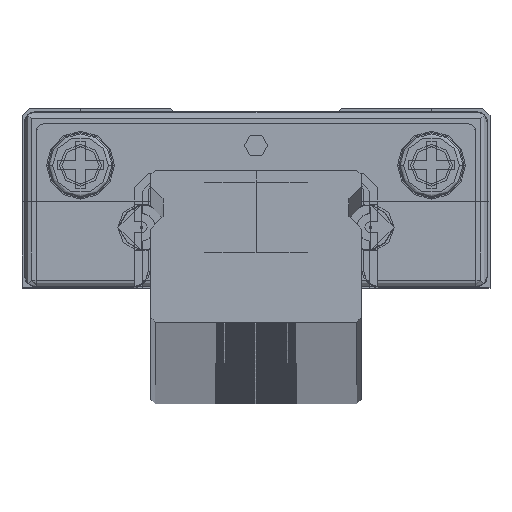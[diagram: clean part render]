
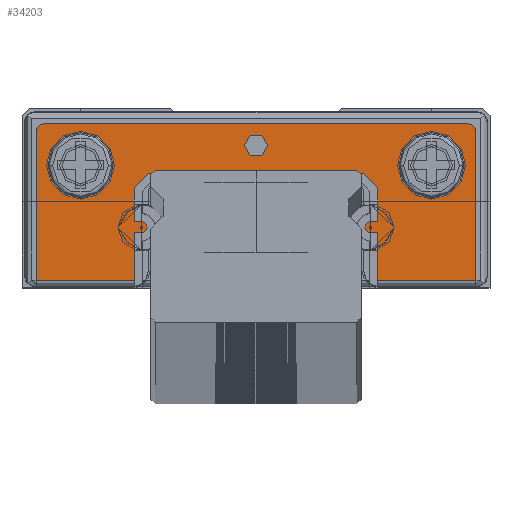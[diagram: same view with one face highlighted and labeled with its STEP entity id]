
A CAD part, top view. The second image highlights one B-rep face of the part: STEP entity #34203.
In plain terms, the highlighted planar face has unit normal (0, 0, 1) as drawn and (0, 0, -1) by its records, which use the part's own axes.
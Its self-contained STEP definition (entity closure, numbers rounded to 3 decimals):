
#22651=DIRECTION('',(0.,-1.,0.));
#22652=VECTOR('',#22651,2.03);
#22653=CARTESIAN_POINT('',(-5.2,-5.345,-20.25));
#22654=LINE('',#22653,#22652);
#23275=CARTESIAN_POINT('',(-4.9,-5.1,-20.25));
#23276=DIRECTION('',(0.,0.,1.));
#23277=DIRECTION('',(0.2,-0.98,0.));
#23278=AXIS2_PLACEMENT_3D('',#23275,#23276,#23277);
#23280=CARTESIAN_POINT('',(-4.9,-5.1,-20.25));
#23281=DIRECTION('',(0.,0.,1.));
#23282=DIRECTION('',(1.,0.,0.));
#23283=AXIS2_PLACEMENT_3D('',#23280,#23281,#23282);
#23285=DIRECTION('',(0.707,0.707,0.));
#23286=VECTOR('',#23285,0.863);
#23287=CARTESIAN_POINT('',(-5.2,-3.41,-20.25));
#23288=LINE('',#23287,#23286);
#23289=DIRECTION('',(0.707,-0.707,0.));
#23290=VECTOR('',#23289,0.863);
#23291=CARTESIAN_POINT('',(4.59,-2.8,-20.25));
#23292=LINE('',#23291,#23290);
#23293=CARTESIAN_POINT('',(4.9,-5.1,-20.25));
#23294=DIRECTION('',(0.,0.,1.));
#23295=DIRECTION('',(-0.2,0.98,0.));
#23296=AXIS2_PLACEMENT_3D('',#23293,#23294,#23295);
#23298=CARTESIAN_POINT('',(4.9,-5.1,-20.25));
#23299=DIRECTION('',(0.,0.,1.));
#23300=DIRECTION('',(-1.,0.,0.));
#23301=AXIS2_PLACEMENT_3D('',#23298,#23299,#23300);
#23303=DIRECTION('',(0.,1.,0.));
#23304=VECTOR('',#23303,6.314);
#23305=CARTESIAN_POINT('',(9.399,-7.375,-20.25));
#23306=LINE('',#23305,#23304);
#23307=CARTESIAN_POINT('',(8.989,-1.061,-20.25));
#23308=DIRECTION('',(0.,0.,1.));
#23309=DIRECTION('',(1.,0.,0.));
#23310=AXIS2_PLACEMENT_3D('',#23307,#23308,#23309);
#23312=DIRECTION('',(-1.,0.,0.));
#23313=VECTOR('',#23312,17.978);
#23314=CARTESIAN_POINT('',(8.989,-0.651,-20.25));
#23315=LINE('',#23314,#23313);
#23316=CARTESIAN_POINT('',(-8.989,-1.061,-20.25));
#23317=DIRECTION('',(0.,0.,1.));
#23318=DIRECTION('',(0.,1.,0.));
#23319=AXIS2_PLACEMENT_3D('',#23316,#23317,#23318);
#23321=DIRECTION('',(0.,-1.,0.));
#23322=VECTOR('',#23321,6.314);
#23323=CARTESIAN_POINT('',(-9.399,-1.061,-20.25));
#23324=LINE('',#23323,#23322);
#23325=CARTESIAN_POINT('',(7.5,-2.45,-20.25));
#23326=DIRECTION('',(0.,0.,-1.));
#23327=DIRECTION('',(-1.,0.,0.));
#23328=AXIS2_PLACEMENT_3D('',#23325,#23326,#23327);
#23330=CARTESIAN_POINT('',(7.5,-2.45,-20.25));
#23331=DIRECTION('',(0.,0.,-1.));
#23332=DIRECTION('',(1.,0.,0.));
#23333=AXIS2_PLACEMENT_3D('',#23330,#23331,#23332);
#23335=CARTESIAN_POINT('',(-7.5,-2.45,-20.25));
#23336=DIRECTION('',(0.,0.,-1.));
#23337=DIRECTION('',(-1.,0.,0.));
#23338=AXIS2_PLACEMENT_3D('',#23335,#23336,#23337);
#23340=CARTESIAN_POINT('',(-7.5,-2.45,-20.25));
#23341=DIRECTION('',(0.,0.,-1.));
#23342=DIRECTION('',(1.,0.,0.));
#23343=AXIS2_PLACEMENT_3D('',#23340,#23341,#23342);
#23345=CARTESIAN_POINT('',(0.,-1.6,-20.25));
#23346=DIRECTION('',(0.,0.,-1.));
#23347=DIRECTION('',(-1.,0.,0.));
#23348=AXIS2_PLACEMENT_3D('',#23345,#23346,#23347);
#23350=CARTESIAN_POINT('',(0.,-1.6,-20.25));
#23351=DIRECTION('',(0.,0.,-1.));
#23352=DIRECTION('',(1.,0.,0.));
#23353=AXIS2_PLACEMENT_3D('',#23350,#23351,#23352);
#23355=DIRECTION('',(-1.,0.,0.));
#23356=VECTOR('',#23355,0.35);
#23357=CARTESIAN_POINT('',(-4.85,-5.345,-20.25));
#23358=LINE('',#23357,#23356);
#23367=DIRECTION('',(1.,0.,0.));
#23368=VECTOR('',#23367,0.35);
#23369=CARTESIAN_POINT('',(-5.2,-4.855,-20.25));
#23370=LINE('',#23369,#23368);
#23375=DIRECTION('',(0.,-1.,0.));
#23376=VECTOR('',#23375,1.445);
#23377=CARTESIAN_POINT('',(-5.2,-3.41,-20.25));
#23378=LINE('',#23377,#23376);
#23387=DIRECTION('',(-1.,0.,0.));
#23388=VECTOR('',#23387,9.18);
#23389=CARTESIAN_POINT('',(4.59,-2.8,-20.25));
#23390=LINE('',#23389,#23388);
#23399=DIRECTION('',(0.,1.,0.));
#23400=VECTOR('',#23399,1.445);
#23401=CARTESIAN_POINT('',(5.2,-4.855,-20.25));
#23402=LINE('',#23401,#23400);
#23407=DIRECTION('',(1.,0.,0.));
#23408=VECTOR('',#23407,0.35);
#23409=CARTESIAN_POINT('',(4.85,-4.855,-20.25));
#23410=LINE('',#23409,#23408);
#23419=DIRECTION('',(-1.,0.,0.));
#23420=VECTOR('',#23419,0.35);
#23421=CARTESIAN_POINT('',(5.2,-5.345,-20.25));
#23422=LINE('',#23421,#23420);
#23432=DIRECTION('',(0.,1.,0.));
#23433=VECTOR('',#23432,2.03);
#23434=CARTESIAN_POINT('',(5.2,-7.375,-20.25));
#23435=LINE('',#23434,#23433);
#23440=DIRECTION('',(-1.,0.,0.));
#23441=VECTOR('',#23440,4.199);
#23442=CARTESIAN_POINT('',(9.399,-7.375,-20.25));
#23443=LINE('',#23442,#23441);
#23505=DIRECTION('',(-1.,0.,0.));
#23506=VECTOR('',#23505,4.199);
#23507=CARTESIAN_POINT('',(-5.2,-7.375,-20.25));
#23508=LINE('',#23507,#23506);
#31169=CARTESIAN_POINT('',(-5.2,-5.345,-20.25));
#31170=VERTEX_POINT('',#31169);
#31171=CARTESIAN_POINT('',(-5.2,-7.375,-20.25));
#31172=VERTEX_POINT('',#31171);
#31353=CARTESIAN_POINT('',(9.399,-1.061,-20.25));
#31354=VERTEX_POINT('',#31353);
#31355=CARTESIAN_POINT('',(9.399,-7.375,-20.25));
#31356=VERTEX_POINT('',#31355);
#31357=CARTESIAN_POINT('',(8.989,-0.651,-20.25));
#31358=VERTEX_POINT('',#31357);
#31362=CARTESIAN_POINT('',(-4.85,-5.345,-20.25));
#31363=VERTEX_POINT('',#31362);
#31364=CARTESIAN_POINT('',(-4.65,-5.1,-20.25));
#31365=CARTESIAN_POINT('',(-4.85,-4.855,-20.25));
#31366=VERTEX_POINT('',#31364);
#31367=VERTEX_POINT('',#31365);
#31368=CARTESIAN_POINT('',(-5.2,-4.855,-20.25));
#31369=VERTEX_POINT('',#31368);
#31370=CARTESIAN_POINT('',(-5.2,-3.41,-20.25));
#31371=VERTEX_POINT('',#31370);
#31372=CARTESIAN_POINT('',(-4.59,-2.8,-20.25));
#31373=VERTEX_POINT('',#31372);
#31374=CARTESIAN_POINT('',(4.59,-2.8,-20.25));
#31375=VERTEX_POINT('',#31374);
#31376=CARTESIAN_POINT('',(5.2,-3.41,-20.25));
#31377=VERTEX_POINT('',#31376);
#31378=CARTESIAN_POINT('',(5.2,-4.855,-20.25));
#31379=VERTEX_POINT('',#31378);
#31380=CARTESIAN_POINT('',(4.85,-4.855,-20.25));
#31381=VERTEX_POINT('',#31380);
#31382=CARTESIAN_POINT('',(4.65,-5.1,-20.25));
#31383=VERTEX_POINT('',#31382);
#31384=CARTESIAN_POINT('',(4.85,-5.345,-20.25));
#31385=VERTEX_POINT('',#31384);
#31386=CARTESIAN_POINT('',(5.2,-5.345,-20.25));
#31387=VERTEX_POINT('',#31386);
#31388=CARTESIAN_POINT('',(5.2,-7.375,-20.25));
#31389=VERTEX_POINT('',#31388);
#31390=CARTESIAN_POINT('',(-8.989,-0.651,-20.25));
#31391=VERTEX_POINT('',#31390);
#31392=CARTESIAN_POINT('',(-9.399,-1.061,-20.25));
#31393=VERTEX_POINT('',#31392);
#31394=CARTESIAN_POINT('',(-9.399,-7.375,-20.25));
#31395=VERTEX_POINT('',#31394);
#31396=CARTESIAN_POINT('',(6.05,-2.45,-20.25));
#31397=CARTESIAN_POINT('',(8.95,-2.45,-20.25));
#31398=VERTEX_POINT('',#31396);
#31399=VERTEX_POINT('',#31397);
#31400=CARTESIAN_POINT('',(-8.95,-2.45,-20.25));
#31401=CARTESIAN_POINT('',(-6.05,-2.45,-20.25));
#31402=VERTEX_POINT('',#31400);
#31403=VERTEX_POINT('',#31401);
#31404=CARTESIAN_POINT('',(-0.5,-1.6,-20.25));
#31405=CARTESIAN_POINT('',(0.5,-1.6,-20.25));
#31406=VERTEX_POINT('',#31404);
#31407=VERTEX_POINT('',#31405);
#34137=CARTESIAN_POINT('',(-8.989,-1.061,-20.25));
#34138=DIRECTION('',(0.,0.,1.));
#34139=DIRECTION('',(1.,0.,0.));
#34140=AXIS2_PLACEMENT_3D('',#34137,#34138,#34139);
#34141=PLANE('',#34140);
#34142=ORIENTED_EDGE('',*,*,#33382,.F.);
#34144=ORIENTED_EDGE('',*,*,#34143,.F.);
#34146=ORIENTED_EDGE('',*,*,#34145,.T.);
#34148=ORIENTED_EDGE('',*,*,#34147,.T.);
#34150=ORIENTED_EDGE('',*,*,#34149,.F.);
#34152=ORIENTED_EDGE('',*,*,#34151,.F.);
#34154=ORIENTED_EDGE('',*,*,#34153,.T.);
#34156=ORIENTED_EDGE('',*,*,#34155,.F.);
#34158=ORIENTED_EDGE('',*,*,#34157,.T.);
#34160=ORIENTED_EDGE('',*,*,#34159,.F.);
#34162=ORIENTED_EDGE('',*,*,#34161,.F.);
#34164=ORIENTED_EDGE('',*,*,#34163,.T.);
#34166=ORIENTED_EDGE('',*,*,#34165,.T.);
#34168=ORIENTED_EDGE('',*,*,#34167,.F.);
#34170=ORIENTED_EDGE('',*,*,#34169,.F.);
#34172=ORIENTED_EDGE('',*,*,#34171,.F.);
#34173=ORIENTED_EDGE('',*,*,#34112,.T.);
#34174=ORIENTED_EDGE('',*,*,#34124,.T.);
#34176=ORIENTED_EDGE('',*,*,#34175,.T.);
#34178=ORIENTED_EDGE('',*,*,#34177,.T.);
#34180=ORIENTED_EDGE('',*,*,#34179,.T.);
#34182=ORIENTED_EDGE('',*,*,#34181,.F.);
#34183=EDGE_LOOP('',(#34142,#34144,#34146,#34148,#34150,#34152,#34154,#34156,
#34158,#34160,#34162,#34164,#34166,#34168,#34170,#34172,#34173,#34174,#34176,
#34178,#34180,#34182));
#34184=FACE_OUTER_BOUND('',#34183,.F.);
#34186=ORIENTED_EDGE('',*,*,#34185,.T.);
#34188=ORIENTED_EDGE('',*,*,#34187,.T.);
#34189=EDGE_LOOP('',(#34186,#34188));
#34190=FACE_BOUND('',#34189,.F.);
#34192=ORIENTED_EDGE('',*,*,#34191,.T.);
#34194=ORIENTED_EDGE('',*,*,#34193,.T.);
#34195=EDGE_LOOP('',(#34192,#34194));
#34196=FACE_BOUND('',#34195,.F.);
#34198=ORIENTED_EDGE('',*,*,#34197,.T.);
#34200=ORIENTED_EDGE('',*,*,#34199,.T.);
#34201=EDGE_LOOP('',(#34198,#34200));
#34202=FACE_BOUND('',#34201,.F.);
#34203=ADVANCED_FACE('',(#34184,#34190,#34196,#34202),#34141,.F.);
#23279=CIRCLE('',#23278,0.25);
#23284=CIRCLE('',#23283,0.25);
#23297=CIRCLE('',#23296,0.25);
#23302=CIRCLE('',#23301,0.25);
#23311=CIRCLE('',#23310,0.41);
#23320=CIRCLE('',#23319,0.41);
#23329=CIRCLE('',#23328,1.45);
#23334=CIRCLE('',#23333,1.45);
#23339=CIRCLE('',#23338,1.45);
#23344=CIRCLE('',#23343,1.45);
#23349=CIRCLE('',#23348,0.5);
#23354=CIRCLE('',#23353,0.5);
#33382=EDGE_CURVE('',#31170,#31172,#22654,.T.);
#34112=EDGE_CURVE('',#31356,#31354,#23306,.T.);
#34124=EDGE_CURVE('',#31354,#31358,#23311,.T.);
#34143=EDGE_CURVE('',#31363,#31170,#23358,.T.);
#34145=EDGE_CURVE('',#31363,#31366,#23279,.T.);
#34147=EDGE_CURVE('',#31366,#31367,#23284,.T.);
#34149=EDGE_CURVE('',#31369,#31367,#23370,.T.);
#34151=EDGE_CURVE('',#31371,#31369,#23378,.T.);
#34153=EDGE_CURVE('',#31371,#31373,#23288,.T.);
#34155=EDGE_CURVE('',#31375,#31373,#23390,.T.);
#34157=EDGE_CURVE('',#31375,#31377,#23292,.T.);
#34159=EDGE_CURVE('',#31379,#31377,#23402,.T.);
#34161=EDGE_CURVE('',#31381,#31379,#23410,.T.);
#34163=EDGE_CURVE('',#31381,#31383,#23297,.T.);
#34165=EDGE_CURVE('',#31383,#31385,#23302,.T.);
#34167=EDGE_CURVE('',#31387,#31385,#23422,.T.);
#34169=EDGE_CURVE('',#31389,#31387,#23435,.T.);
#34171=EDGE_CURVE('',#31356,#31389,#23443,.T.);
#34175=EDGE_CURVE('',#31358,#31391,#23315,.T.);
#34177=EDGE_CURVE('',#31391,#31393,#23320,.T.);
#34179=EDGE_CURVE('',#31393,#31395,#23324,.T.);
#34181=EDGE_CURVE('',#31172,#31395,#23508,.T.);
#34185=EDGE_CURVE('',#31398,#31399,#23329,.T.);
#34187=EDGE_CURVE('',#31399,#31398,#23334,.T.);
#34191=EDGE_CURVE('',#31402,#31403,#23339,.T.);
#34193=EDGE_CURVE('',#31403,#31402,#23344,.T.);
#34197=EDGE_CURVE('',#31406,#31407,#23349,.T.);
#34199=EDGE_CURVE('',#31407,#31406,#23354,.T.);
